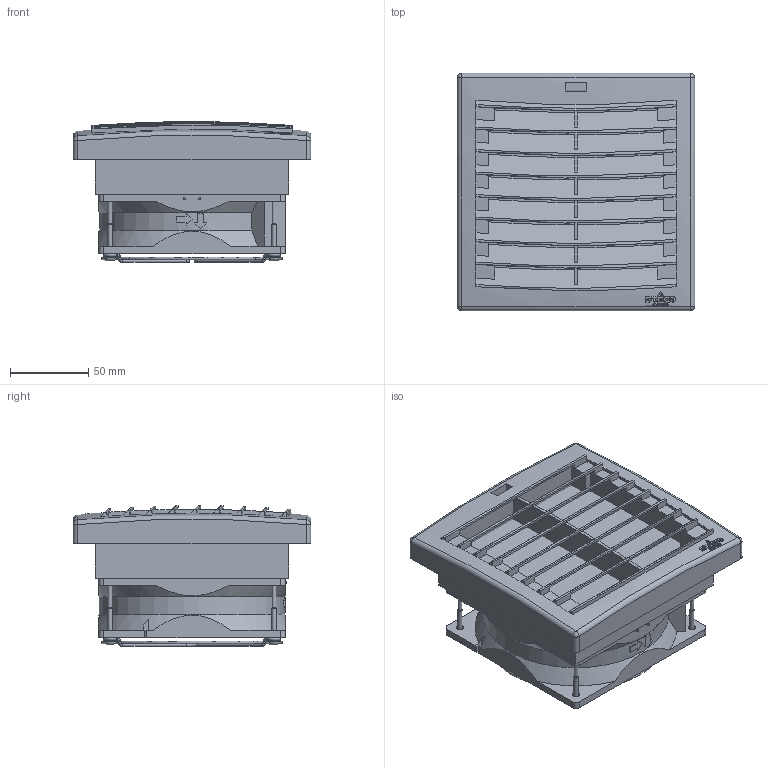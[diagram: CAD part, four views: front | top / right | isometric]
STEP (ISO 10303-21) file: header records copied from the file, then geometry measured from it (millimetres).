
FILE_DESCRIPTION (( 'STEP AP214' ), '1' );
FILE_NAME ('FPI_018_124x124_EPLAN_10_2015.STEP', '2015-10-16T07:35:40', ( '' ), ( '' ), 'SwSTEP 2.0', 'SolidWorks 2015', '' );
FILE_SCHEMA (( 'AUTOMOTIVE_DESIGN' ));
Length unit declared in the file: millimetre
Products named in the file (1): FPI_018_124x124_EPLAN_10_2015
Bounding box: 152 x 152 x 90.12 mm (x, y, z)
Surface area: 204965.1 mm2 (no closed solid volume)
Topology: 0 solids, 30 shells, 444 faces, 1804 edges, 1310 vertices
Faces by surface type: plane 206, cylinder 86, sphere 55, bspline 42, torus 42, cone 13
Full cylindrical faces by diameter (mm): 1.5 x2, 1.8 x16, 2.5 x4, 2.75 x4, 3.5 x2, 4 x2, 4.572 x8, 5.316 x1, 7.4 x4, 7.8 x4, 115.062 x1
Entity records: 26480 total; most frequent: CARTESIAN_POINT 8026, DIRECTION 2724, ORIENTED_EDGE 2531, EDGE_CURVE 1609, VERTEX_POINT 1234, AXIS2_PLACEMENT_3D 1032, VECTOR 660, LINE 660
